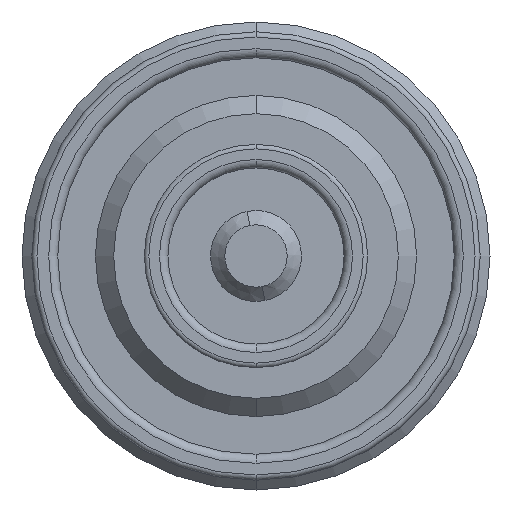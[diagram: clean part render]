
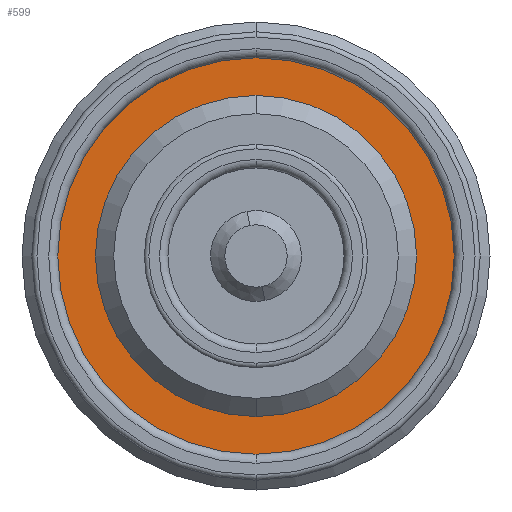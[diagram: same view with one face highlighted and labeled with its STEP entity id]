
A CAD part, front view. The second image highlights one B-rep face of the part: STEP entity #599.
In plain terms, the highlighted planar face has unit normal (0, -1, 0).
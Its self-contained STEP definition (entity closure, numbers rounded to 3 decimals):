
#196=PLANE('',#2606);
#236=FACE_BOUND('',#941,.T.);
#237=FACE_BOUND('',#942,.T.);
#599=ADVANCED_FACE('',(#236,#237),#196,.F.);
#941=EDGE_LOOP('',(#1251,#1252));
#942=EDGE_LOOP('',(#1253,#1254));
#1251=ORIENTED_EDGE('',*,*,#2066,.F.);
#1252=ORIENTED_EDGE('',*,*,#1995,.F.);
#1253=ORIENTED_EDGE('',*,*,#1991,.T.);
#1254=ORIENTED_EDGE('',*,*,#2067,.T.);
#1777=VERTEX_POINT('',#3776);
#1778=VERTEX_POINT('',#3778);
#1781=VERTEX_POINT('',#3785);
#1782=VERTEX_POINT('',#3787);
#1991=EDGE_CURVE('',#1778,#1777,#2307,.T.);
#1995=EDGE_CURVE('',#1781,#1782,#2310,.T.);
#2066=EDGE_CURVE('',#1782,#1781,#2358,.T.);
#2067=EDGE_CURVE('',#1777,#1778,#2359,.T.);
#2307=CIRCLE('',#2517,16.9);
#2310=CIRCLE('',#2521,12.35);
#2358=CIRCLE('',#2603,12.35);
#2359=CIRCLE('',#2605,16.9);
#2517=AXIS2_PLACEMENT_3D('',#3777,#2927,#2928);
#2521=AXIS2_PLACEMENT_3D('',#3786,#2936,#2937);
#2603=AXIS2_PLACEMENT_3D('',#4097,#3113,#3114);
#2605=AXIS2_PLACEMENT_3D('',#4099,#3117,#3118);
#2606=AXIS2_PLACEMENT_3D('',#4100,#3119,#3120);
#2927=DIRECTION('',(0.,-1.,0.));
#2928=DIRECTION('',(0.,0.,-1.));
#2936=DIRECTION('',(0.,-1.,0.));
#2937=DIRECTION('',(0.,0.,-1.));
#3113=DIRECTION('',(0.,-1.,0.));
#3114=DIRECTION('',(0.,0.,-1.));
#3117=DIRECTION('',(0.,-1.,0.));
#3118=DIRECTION('',(0.,0.,-1.));
#3119=DIRECTION('',(0.,1.,0.));
#3120=DIRECTION('',(0.,0.,-1.));
#3776=CARTESIAN_POINT('',(0.,0.1,16.9));
#3777=CARTESIAN_POINT('',(0.,0.1,0.));
#3778=CARTESIAN_POINT('',(0.,0.1,-16.9));
#3785=CARTESIAN_POINT('',(0.,0.1,-12.35));
#3786=CARTESIAN_POINT('',(0.,0.1,0.));
#3787=CARTESIAN_POINT('',(0.,0.1,12.35));
#4097=CARTESIAN_POINT('',(0.,0.1,0.));
#4099=CARTESIAN_POINT('',(0.,0.1,0.));
#4100=CARTESIAN_POINT('',(0.,0.1,0.));
